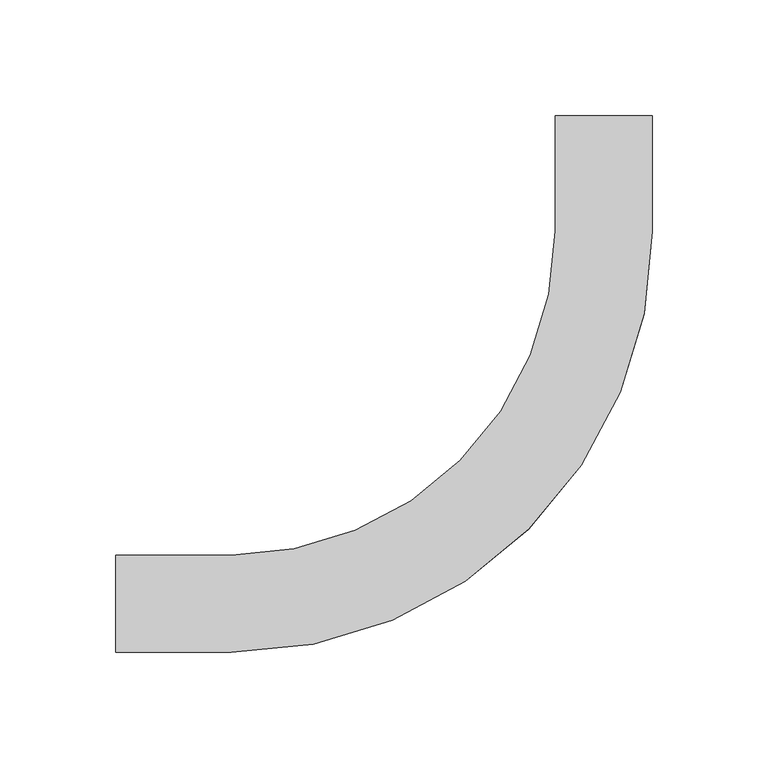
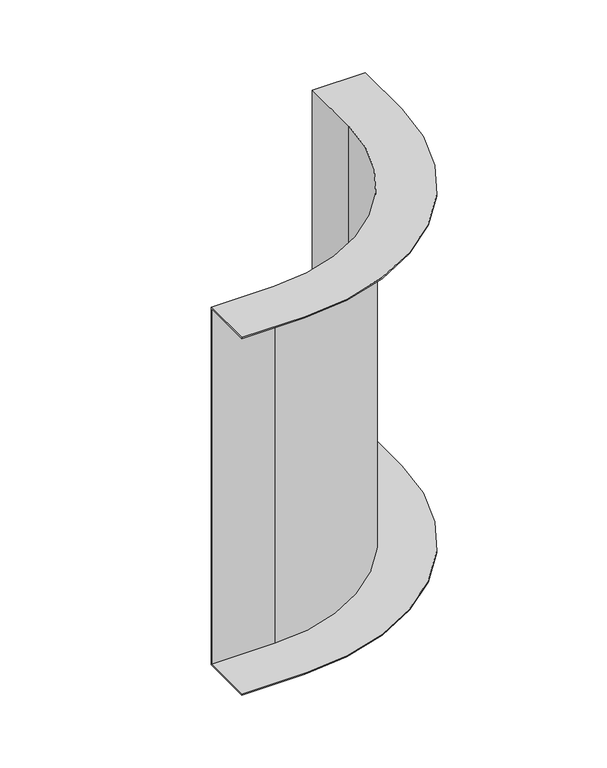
"""IFC4 building model written with IfcOpenShell, lengths in millimetres: cable carrier fitting geometry, BAKS_Vertical bend adjustable : LLL/LLJ_H42."""

import ifcopenshell
import ifcopenshell.guid

model = None  # the IFC model being written
_history = None  # IfcOwnerHistory: only IFC2X3 demands one
_inside = {}  # id of a spatial element -> (the spatial element, [elements in it])
_under = {}  # id of a project, library or spatial element -> (it, [spatial elements below it])
_declared = {}  # id of a project -> (the project, [libraries it declares])
_typed = {}  # id of a type object -> (the type object, [elements of that type])
_made_of = {}  # id of a material, layer set ... -> (it, [elements and type objects made of it])


def new_model(schema):
    """Start an empty IFC model of exactly this schema.

    Asked for "IFC4X3", IfcOpenShell would pick the latest addendum, in which some entities
    have other attributes; the version numbers below select the first issue.
    IFC2X3 requires an IfcOwnerHistory on every rooted entity: one is made here for all.
    """
    global model, _history
    if schema == "IFC4X3":
        model = ifcopenshell.file(schema_version=(4, 3, 0, 0))
    else:
        model = ifcopenshell.file(schema=schema)
    _inside.clear()
    _under.clear()
    _declared.clear()
    _typed.clear()
    _made_of.clear()
    _history = None
    if model.schema == "IFC2X3":
        org = make("IfcOrganization", Name="unknown")
        user = make(
            "IfcPersonAndOrganization",
            ThePerson=make("IfcPerson", FamilyName="unknown"),
            TheOrganization=org,
        )
        app = make(
            "IfcApplication",
            ApplicationDeveloper=org,
            Version="unknown",
            ApplicationFullName="unknown",
            ApplicationIdentifier="unknown",
        )
        _history = make(
            "IfcOwnerHistory",
            OwningUser=user,
            OwningApplication=app,
            ChangeAction="ADDED",
            CreationDate=0,
        )
    return model


def make(cls, **values):
    """One entity of the class cls with the attributes given. An attribute that is None is left unset."""
    return model.create_entity(
        cls, **{name: value for name, value in values.items() if value is not None}
    )


def rooted(cls, **values):
    """An entity with a GlobalId (a new one), such as an element, a storey or a relation."""
    return make(cls, GlobalId=ifcopenshell.guid.new(), OwnerHistory=_history, **values)


def si_unit(unit_type, name, prefix=None):
    """IfcSIUnit, for example si_unit("LENGTHUNIT", "METRE", prefix="MILLI")."""
    return make("IfcSIUnit", UnitType=unit_type, Prefix=prefix, Name=name)


def assignment(units):
    """IfcUnitAssignment: the units of a project."""
    return None if units is None else make("IfcUnitAssignment", Units=units)


def point(xyz):
    """IfcCartesianPoint."""
    return None if xyz is None else make("IfcCartesianPoint", Coordinates=xyz)


def direction(xyz):
    """IfcDirection."""
    return None if xyz is None else make("IfcDirection", DirectionRatios=xyz)


def frame(location, z_axis=None, x_axis=None):
    """IfcAxis2Placement3D, a coordinate frame: its origin and axes. An axis left out is left unset."""
    return make(
        "IfcAxis2Placement3D",
        Location=point(location),
        Axis=direction(z_axis),
        RefDirection=direction(x_axis),
    )


def origin():
    """The frame at (0, 0, 0) with its axes left unset."""
    return frame((0.0, 0.0, 0.0))


def place(relative_to, where):
    """IfcLocalPlacement: puts the frame where relative to a parent placement (None: the world)."""
    return make(
        "IfcLocalPlacement", PlacementRelTo=relative_to, RelativePlacement=where
    )


def context(
    kind, dimensions, precision=None, world=None, true_north=None, identifier=None
):
    """IfcGeometricRepresentationContext, for example the 3D "Model" context."""
    return make(
        "IfcGeometricRepresentationContext",
        ContextIdentifier=identifier,
        ContextType=kind,
        CoordinateSpaceDimension=dimensions,
        Precision=precision,
        WorldCoordinateSystem=world,
        TrueNorth=true_north,
    )


def project(units=None, contexts=None):
    """IfcProject with its units and contexts."""
    return rooted(
        "IfcProject",
        Name="project",
        RepresentationContexts=contexts,
        UnitsInContext=assignment(units),
    )


def spatial(cls, under=None, at=None, **own):
    """A site, building, storey or space (cls), placed at a placement, below another one or the project."""
    s = rooted(cls, ObjectPlacement=at, **own)
    if under is not None:
        _under.setdefault(under.id(), (under, []))[1].append(s)
    return s


def polyline(points):
    """IfcPolyline through the points."""
    return make("IfcPolyline", Points=[point(p) for p in points])


def circle_curve(where, radius):
    """IfcCircle in the frame where."""
    return make("IfcCircle", Position=where, Radius=radius)


def shape(context_of_items, identifier, shape_type, items):
    """IfcShapeRepresentation: the items that make up one representation, for example the "Body"."""
    return make(
        "IfcShapeRepresentation",
        ContextOfItems=context_of_items,
        RepresentationIdentifier=identifier,
        RepresentationType=shape_type,
        Items=items,
    )


def source(mapping_origin, context_of_items, identifier, shape_type, items):
    """IfcRepresentationMap: a shape defined once, which mapped items show again and again."""
    return make(
        "IfcRepresentationMap",
        MappingOrigin=mapping_origin,
        MappedRepresentation=shape(context_of_items, identifier, shape_type, items),
    )


def transform(
    local_origin,
    x_axis=None,
    y_axis=None,
    z_axis=None,
    scale=None,
    scale2=None,
    scale3=None,
    uniform=True,
):
    """IfcCartesianTransformationOperator3D, or its non-uniform kind. x_axis, y_axis, z_axis: its Axis1, 2, 3."""
    if uniform:
        return make(
            "IfcCartesianTransformationOperator3D",
            Axis1=direction(x_axis),
            Axis2=direction(y_axis),
            LocalOrigin=point(local_origin),
            Scale=scale,
            Axis3=direction(z_axis),
        )
    return make(
        "IfcCartesianTransformationOperator3DnonUniform",
        Axis1=direction(x_axis),
        Axis2=direction(y_axis),
        LocalOrigin=point(local_origin),
        Scale=scale,
        Axis3=direction(z_axis),
        Scale2=scale2,
        Scale3=scale3,
    )


def mapped(mapping_source, mapping_target):
    """IfcMappedItem: shows the shape of a source again, moved by a transform."""
    return make(
        "IfcMappedItem", MappingSource=mapping_source, MappingTarget=mapping_target
    )


def made_of(thing, what):
    """Note that an element or type object is made of a material, layer set ...; save() writes the relation."""
    if what is not None:
        _made_of.setdefault(what.id(), (what, []))[1].append(thing)
    return thing


def element(
    cls,
    number,
    at=None,
    inside=None,
    cuts=None,
    type_object=None,
    material=None,
    context=None,
    identifier="Body",
    shape_type=None,
    held_by="IfcProductDefinitionShape",
    body=None,
    shapes=None,
    **own,
):
    """One element of the class cls, such as IfcWall. Its Tag is "e" and its number.

    at: its placement. inside: the storey or other place that contains it. cuts: it is an
    opening in that element (IfcRelVoidsElement). A single representation is given by context,
    identifier, shape_type and body (its items); several are given by shapes. held_by: the class
    of the entity that holds the representations. save() writes the other relations.
    """
    e = rooted(cls, Tag="e%d" % number, ObjectPlacement=at, **own)
    if body is not None:
        shapes = [shape(context, identifier, shape_type, body)]
    if shapes is not None:
        e.Representation = make(held_by, Representations=shapes)
    if inside is not None:
        _inside.setdefault(inside.id(), (inside, []))[1].append(e)
    if cuts is not None:
        rooted(
            "IfcRelVoidsElement", RelatingBuildingElement=cuts, RelatedOpeningElement=e
        )
    if type_object is not None:
        _typed.setdefault(type_object.id(), (type_object, []))[1].append(e)
    return made_of(e, material)


def aggregate(whole, parts):
    """IfcRelAggregates: a whole, such as a stair, and the parts it consists of."""
    return rooted("IfcRelAggregates", RelatingObject=whole, RelatedObjects=parts)


def save(model, path):
    """Write the relations noted so far, then the file.

    IfcRelAggregates (storeys below a building ...), IfcRelContainedInSpatialStructure (elements
    in a storey), IfcRelDefinesByType, IfcRelAssociatesMaterial and IfcRelDeclares: one each for
    every whole, place, type object, material and project.
    """
    for whole, parts in _under.values():
        aggregate(whole, parts)
    for where, things in _inside.values():
        rooted(
            "IfcRelContainedInSpatialStructure",
            RelatedElements=things,
            RelatingStructure=where,
        )
    for kind, things in _typed.values():
        rooted("IfcRelDefinesByType", RelatedObjects=things, RelatingType=kind)
    for what, things in _made_of.values():
        rooted("IfcRelAssociatesMaterial", RelatedObjects=things, RelatingMaterial=what)
    for by, libraries in _declared.values():
        rooted("IfcRelDeclares", RelatingContext=by, RelatedDefinitions=libraries)
    model.write(path)


def plane_surface(at):
    """IfcPlane: the flat surface through the origin of the frame at, square to its z axis."""
    return make("IfcPlane", Position=at)


def cylinder_surface(at, radius):
    """IfcCylindricalSurface: all points at the distance radius from the z axis of the frame at."""
    return make("IfcCylindricalSurface", Position=at, Radius=radius)


def revolved_surface(curve, axis_point, axis_direction):
    """IfcSurfaceOfRevolution: the curve turned about the line through axis_point along axis_direction."""
    return make(
        "IfcSurfaceOfRevolution",
        SweptCurve=make("IfcArbitraryOpenProfileDef", ProfileType="CURVE", Curve=curve),
        AxisPosition=make("IfcAxis1Placement", Location=point(axis_point), Axis=direction(axis_direction)),
    )


def advanced_brep(points, edges, surfaces, faces):
    """IfcAdvancedBrep: a solid bounded by faces that lie on surfaces and meet in shared edges.

    An edge is (start, end): straight between two places in points (the first is 0);
    or (start, end, curve); or (start, end, curve, False) where it runs against its curve.
    A face is (place in surfaces, loops), or (place, loops, False) where it looks against
    its surface's normal. A loop lists edges by number (the first is 1), with a minus sign
    where the edge is run from its end to its start. The first loop is the outer one.
    """
    corners = [point(p) for p in points]
    vertices = [make("IfcVertexPoint", VertexGeometry=c) for c in corners]
    made = []
    for start, end, *more in edges:
        made.append(
            make(
                "IfcEdgeCurve",
                EdgeStart=vertices[start],
                EdgeEnd=vertices[end],
                EdgeGeometry=more[0] if more else make("IfcPolyline", Points=[corners[start], corners[end]]),
                SameSense=more[1] if len(more) > 1 else True,
            )
        )
    hull = []
    for where, loops, *sense in faces:
        bounds = []
        for j, loop in enumerate(loops):
            ring = [make("IfcOrientedEdge", EdgeElement=made[abs(k) - 1], Orientation=k > 0) for k in loop]
            bounds.append(
                make(
                    "IfcFaceOuterBound" if j == 0 else "IfcFaceBound",
                    Bound=make("IfcEdgeLoop", EdgeList=ring),
                    Orientation=True,
                )
            )
        hull.append(make("IfcAdvancedFace", Bounds=bounds, FaceSurface=surfaces[where], SameSense=sense[0] if sense else True))
    return make("IfcAdvancedBrep", Outer=make("IfcClosedShell", CfsFaces=hull))


def cable_carrier_fitting_bee8c25e(model_context):
    return source(origin(), model_context, "Body", "AdvancedBrep", [
        advanced_brep(
        [(-211.0, -21.0, 150.0), (-211.0, 21.0, 150.0), (-211.0, 21.0, -150.0), (-211.0, -21.0, -150.0), (-211.0, -21.0, -149.0), (-211.0, 20.0, -149.0), (-211.0, 20.0, 149.0), (-211.0, -21.0, 149.0), (21.0, 211.0, 150.0), (21.0, 211.0, 149.0), (-20.0, 211.0, 149.0), (-20.0, 211.0, -149.0), (21.0, 211.0, -149.0), (21.0, 211.0, -150.0), (-21.0, 211.0, -150.0), (-21.0, 211.0, 150.0), (-161.0, -21.0, 150.0), (21.0, 161.0, 150.0), (-21.0, 161.0, 150.0), (-161.0, 21.0, 150.0), (-161.0, 21.0, -150.0), (-21.0, 161.0, -150.0), (21.0, 161.0, -150.0), (-161.0, -21.0, -150.0), (-161.0, -21.0, -149.0), (21.0, 161.0, -149.0), (-20.0, 161.0, -149.0), (-161.0, 20.0, -149.0), (-161.0, 20.0, 149.0), (-20.0, 161.0, 149.0), (21.0, 161.0, 149.0), (-161.0, -21.0, 149.0)],
        [
            (0, 1),
            (1, 2),
            (2, 3),
            (3, 4),
            (4, 5),
            (5, 6),
            (6, 7),
            (7, 0),
            (8, 9),
            (9, 10),
            (10, 11),
            (11, 12),
            (12, 13),
            (13, 14),
            (14, 15),
            (15, 8),
            (0, 16),
            (16, 17, circle_curve(frame((-161.0, 161.0, 150.0), z_axis=(0.0, 0.0, 1.0), x_axis=(0.0, -1.0, 0.0)), 182.0)),
            (17, 8),
            (15, 18),
            (18, 19, circle_curve(frame((-161.0, 161.0, 150.0), z_axis=(0.0, 0.0, -1.0), x_axis=(0.0, -1.0, 0.0)), 140.0)),
            (19, 1),
            (19, 20),
            (20, 2),
            (20, 21, circle_curve(frame((-161.0, 161.0, -150.0), z_axis=(0.0, 0.0, 1.0), x_axis=(0.0, -1.0, 0.0)), 140.0)),
            (21, 14),
            (13, 22),
            (22, 23, circle_curve(frame((-161.0, 161.0, -150.0), z_axis=(0.0, 0.0, -1.0), x_axis=(0.0, -1.0, 0.0)), 182.0)),
            (23, 3),
            (23, 24),
            (24, 4),
            (24, 25, circle_curve(frame((-161.0, 161.0, -149.0), z_axis=(0.0, 0.0, 1.0), x_axis=(0.0, -1.0, 0.0)), 182.0)),
            (25, 12),
            (11, 26),
            (26, 27, circle_curve(frame((-161.0, 161.0, -149.0), z_axis=(0.0, 0.0, -1.0), x_axis=(0.0, -1.0, 0.0)), 141.0)),
            (27, 5),
            (27, 28),
            (28, 6),
            (28, 29, circle_curve(frame((-161.0, 161.0, 149.0), z_axis=(0.0, 0.0, 1.0), x_axis=(0.0, -1.0, 0.0)), 141.0)),
            (29, 10),
            (9, 30),
            (30, 31, circle_curve(frame((-161.0, 161.0, 149.0), z_axis=(0.0, 0.0, -1.0), x_axis=(0.0, -1.0, 0.0)), 182.0)),
            (31, 7),
            (31, 16),
            (18, 21),
            (22, 25),
            (26, 29),
            (30, 17),
        ],
        [
            plane_surface(frame((-211.0, 0.0, 0.0), z_axis=(-1.0, 0.0, 0.0), x_axis=(0.0, 0.0, 1.0))),
            plane_surface(frame((0.0, 211.0, 0.0), z_axis=(0.0, 1.0, 0.0), x_axis=(0.0, 0.0, 1.0))),
            plane_surface(frame((-211.0, -21.0, 150.0), z_axis=(0.0, 0.0, 1.0), x_axis=(1.0, 0.0, 0.0))),
            plane_surface(frame((-211.0, 21.0, 150.0), z_axis=(0.0, 1.0, 0.0), x_axis=(1.0, 0.0, 0.0))),
            plane_surface(frame((-211.0, 21.0, -150.0), z_axis=(0.0, 0.0, -1.0), x_axis=(1.0, 0.0, 0.0))),
            plane_surface(frame((-211.0, -21.0, -150.0), z_axis=(0.0, -1.0, 0.0), x_axis=(1.0, 0.0, 0.0))),
            plane_surface(frame((-211.0, -21.0, -149.0), z_axis=(0.0, 0.0, 1.0), x_axis=(1.0, 0.0, 0.0))),
            plane_surface(frame((-211.0, 20.0, -149.0), z_axis=(0.0, -1.0, 0.0), x_axis=(1.0, 0.0, 0.0))),
            plane_surface(frame((-211.0, 20.0, 149.0), z_axis=(0.0, 0.0, -1.0), x_axis=(1.0, 0.0, 0.0))),
            plane_surface(frame((-211.0, -21.0, 149.0), z_axis=(0.0, -1.0, 0.0), x_axis=(1.0, 0.0, 0.0))),
            revolved_surface(polyline([(-161.0, 21.0, 150.0), (-161.0, 21.0, -150.0)]), (-161.0, 161.0, 0.0), (0.0, 0.0, 1.0)),
            cylinder_surface(frame((-161.0, 161.0, 0.0), z_axis=(0.0, 0.0, 1.0), x_axis=(0.0, -1.0, 0.0)), 182.0),
            cylinder_surface(frame((-161.0, 161.0, 0.0), z_axis=(0.0, 0.0, 1.0), x_axis=(0.0, -1.0, 0.0)), 141.0),
            plane_surface(frame((-21.0, 161.0, 150.0), z_axis=(-1.0, 0.0, 0.0), x_axis=(0.0, 1.0, 0.0))),
            plane_surface(frame((21.0, 161.0, -150.0), z_axis=(1.0, 0.0, 0.0), x_axis=(0.0, 1.0, 0.0))),
            plane_surface(frame((-20.0, 161.0, -149.0), z_axis=(1.0, 0.0, 0.0), x_axis=(0.0, 1.0, 0.0))),
            plane_surface(frame((21.0, 161.0, 149.0), z_axis=(1.0, 0.0, 0.0), x_axis=(0.0, 1.0, 0.0))),
        ],
        [
            (0, [[1, 2, 3, 4, 5, 6, 7, 8]]),
            (1, [[9, 10, 11, 12, 13, 14, 15, 16]]),
            (2, [[-1, 17, 18, 19, -16, 20, 21, 22]]),
            (3, [[-2, -22, 23, 24]]),
            (4, [[-3, -24, 25, 26, -14, 27, 28, 29]]),
            (5, [[-4, -29, 30, 31]]),
            (6, [[-5, -31, 32, 33, -12, 34, 35, 36]]),
            (7, [[-6, -36, 37, 38]]),
            (8, [[-7, -38, 39, 40, -10, 41, 42, 43]]),
            (9, [[-8, -43, 44, -17]]),
            (10, [[-25, -23, -21, 45]]),
            (11, [[-32, -30, -28, 46]]),
            (12, [[-39, -37, -35, 47]]),
            (11, [[-18, -44, -42, 48]]),
            (13, [[-45, -20, -15, -26]]),
            (14, [[-46, -27, -13, -33]]),
            (15, [[-47, -34, -11, -40]]),
            (16, [[-48, -41, -9, -19]]),
        ],
    ),
    ])


if __name__ == "__main__":
    model = new_model("IFC4")
    model_context = context("Model", 3, world=origin())
    ifc_project = project(units=[si_unit("LENGTHUNIT", "METRE", prefix="MILLI")], contexts=[model_context])
    site = spatial("IfcSite", under=ifc_project)
    building = spatial("IfcBuilding", under=site)
    placement = place(None, origin())
    cable_carrier_fitting_shape = cable_carrier_fitting_bee8c25e(model_context)
    element("IfcCableCarrierFitting", 1, ObjectType="BAKS_Vertical bend adjustable : LLL/LLJ_H42", at=placement, inside=building, context=model_context, shape_type="MappedRepresentation", body=[
        mapped(cable_carrier_fitting_shape, transform((0.0, 0.0, 0.0), x_axis=(1.0, 0.0, 0.0), y_axis=(0.0, 1.0, 0.0), z_axis=(0.0, 0.0, 1.0))),
    ])
    save(model, "model.ifc")
